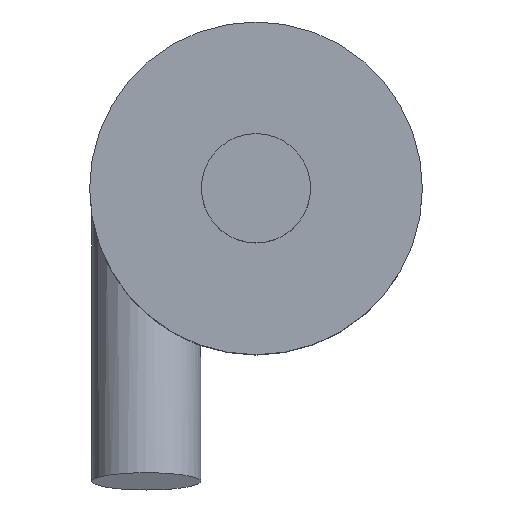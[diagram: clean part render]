
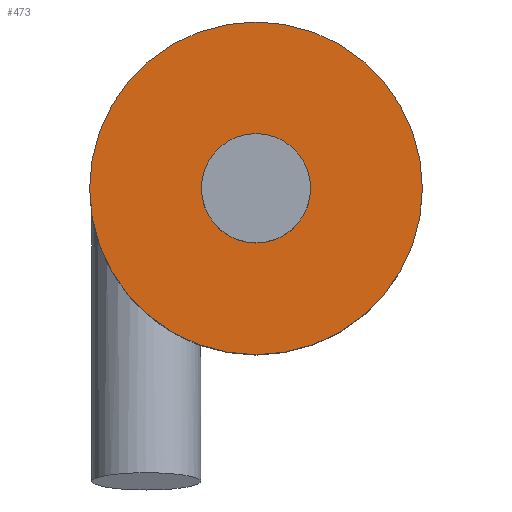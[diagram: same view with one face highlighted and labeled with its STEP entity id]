
A CAD part, top view. The second image highlights one B-rep face of the part: STEP entity #473.
In plain terms, the highlighted planar face has unit normal (0, 0, 1) as drawn and (0, 1, 0) by its records, which use the part's own axes.
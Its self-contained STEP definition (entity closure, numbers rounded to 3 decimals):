
#29=FACE_BOUND('',#118,.T.);
#58=PLANE('',#537);
#82=FACE_OUTER_BOUND('',#117,.T.);
#117=EDGE_LOOP('',(#419));
#118=EDGE_LOOP('',(#420));
#150=CIRCLE('',#536,76.15);
#151=CIRCLE('',#538,25.);
#248=VERTEX_POINT('',#890);
#249=VERTEX_POINT('',#894);
#307=EDGE_CURVE('',#248,#248,#150,.T.);
#309=EDGE_CURVE('',#249,#249,#151,.T.);
#419=ORIENTED_EDGE('',*,*,#307,.T.);
#420=ORIENTED_EDGE('',*,*,#309,.F.);
#473=ADVANCED_FACE('',(#82,#29),#58,.T.);
#536=AXIS2_PLACEMENT_3D('',#891,#659,#660);
#537=AXIS2_PLACEMENT_3D('',#893,#662,#663);
#538=AXIS2_PLACEMENT_3D('',#895,#664,#665);
#659=DIRECTION('center_axis',(0.,1.,0.));
#660=DIRECTION('ref_axis',(1.,0.,0.));
#662=DIRECTION('center_axis',(0.,1.,0.));
#663=DIRECTION('ref_axis',(0.,0.,1.));
#664=DIRECTION('center_axis',(0.,1.,0.));
#665=DIRECTION('ref_axis',(1.,0.,0.));
#890=CARTESIAN_POINT('',(76.15,337.,0.));
#891=CARTESIAN_POINT('Origin',(0.,337.,0.));
#893=CARTESIAN_POINT('Origin',(-25.,337.,0.));
#894=CARTESIAN_POINT('',(25.,337.,0.));
#895=CARTESIAN_POINT('Origin',(0.,337.,0.));
